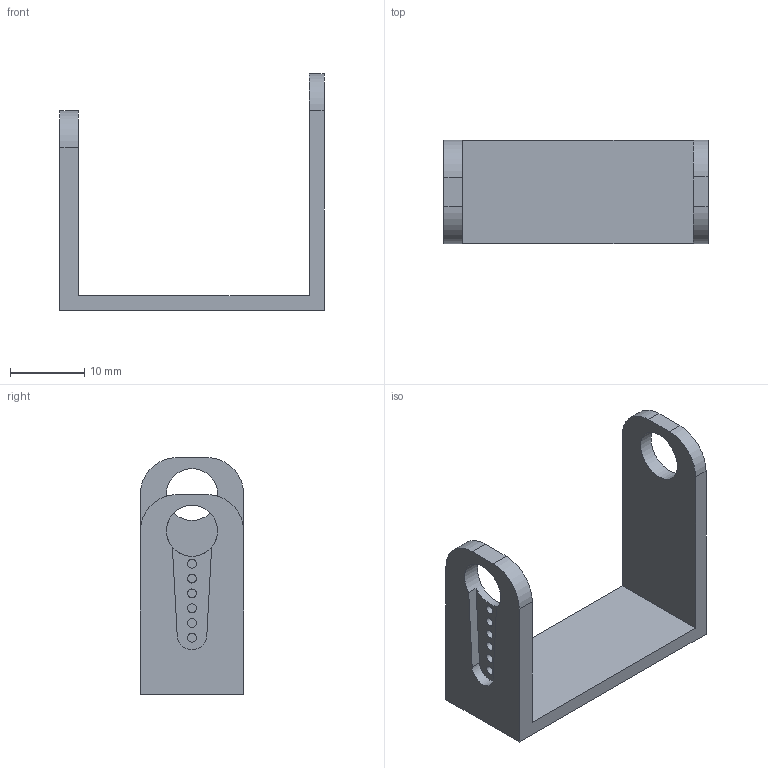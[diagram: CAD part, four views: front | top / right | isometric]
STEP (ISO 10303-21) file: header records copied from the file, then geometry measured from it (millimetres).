
FILE_DESCRIPTION(/* description */ (''),/* implementation_level */ '2;1');
FILE_NAME(/* name */ 'Short Wrist_v2.tmp.step',/* time_stamp */ '2026-11-01T13:11:27+02:00',/* author */ (''),/* organization */ (''),/* preprocessor_version */ 'ST-DEVELOPER v20.2',/* originating_system */ 'Autodesk Translation Framework v15.15.0.0',/* authorisation */ '');
FILE_SCHEMA (('AUTOMOTIVE_DESIGN { 1 0 10303 214 3 1 1 }'));
Length unit declared in the file: millimetre
Products named in the file (1): Short Wrist
Bounding box: 35.7 x 14 x 32 mm (x, y, z)
Volume: 2408.9 mm3; surface area: 2912.4 mm2
Topology: 1 solids, 1 shells, 26 faces, 72 edges, 48 vertices
Faces by surface type: cylinder 13, plane 13
Full cylindrical faces by diameter (mm): 1.2 x6, 6.9 x1, 7 x1
Entity records: 909 total; most frequent: DIRECTION 154, CARTESIAN_POINT 147, ORIENTED_EDGE 144, EDGE_CURVE 72, AXIS2_PLACEMENT_3D 55, VERTEX_POINT 48, LINE 44, VECTOR 44
